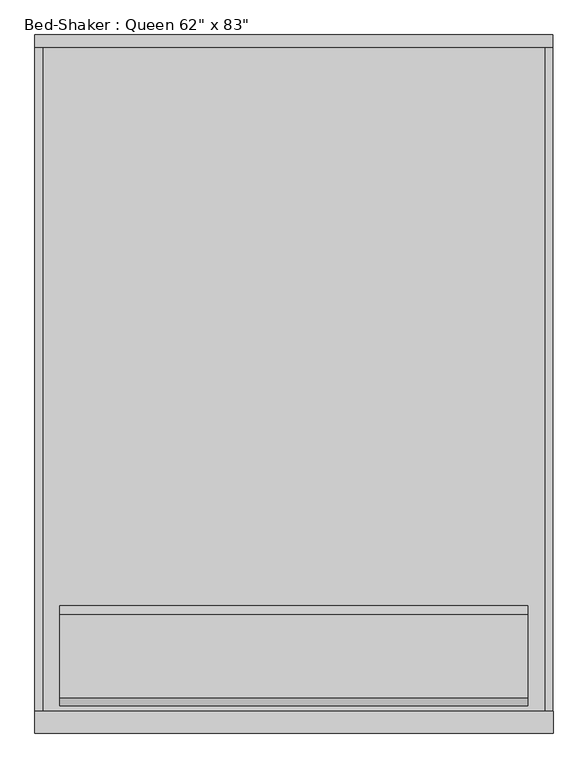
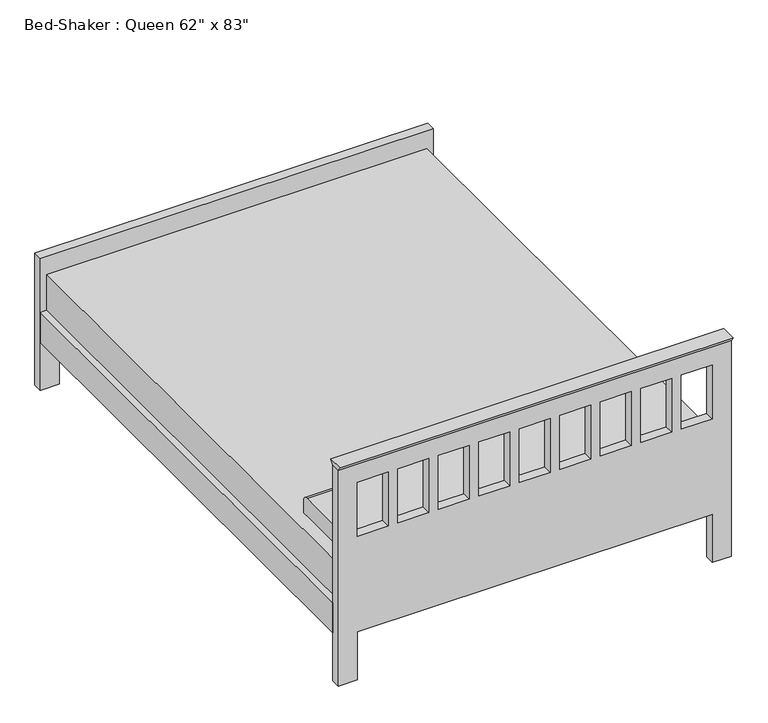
"""IFC4 building model written with IfcOpenShell, lengths in millimetres: furniture geometry."""

import ifcopenshell
import ifcopenshell.guid

model = None  # the IFC model being written
_history = None  # IfcOwnerHistory: only IFC2X3 demands one
_inside = {}  # id of a spatial element -> (the spatial element, [elements in it])
_under = {}  # id of a project, library or spatial element -> (it, [spatial elements below it])
_declared = {}  # id of a project -> (the project, [libraries it declares])
_typed = {}  # id of a type object -> (the type object, [elements of that type])
_made_of = {}  # id of a material, layer set ... -> (it, [elements and type objects made of it])


def new_model(schema):
    """Start an empty IFC model of exactly this schema.

    Asked for "IFC4X3", IfcOpenShell would pick the latest addendum, in which some entities
    have other attributes; the version numbers below select the first issue.
    IFC2X3 requires an IfcOwnerHistory on every rooted entity: one is made here for all.
    """
    global model, _history
    if schema == "IFC4X3":
        model = ifcopenshell.file(schema_version=(4, 3, 0, 0))
    else:
        model = ifcopenshell.file(schema=schema)
    _inside.clear()
    _under.clear()
    _declared.clear()
    _typed.clear()
    _made_of.clear()
    _history = None
    if model.schema == "IFC2X3":
        org = make("IfcOrganization", Name="unknown")
        user = make(
            "IfcPersonAndOrganization",
            ThePerson=make("IfcPerson", FamilyName="unknown"),
            TheOrganization=org,
        )
        app = make(
            "IfcApplication",
            ApplicationDeveloper=org,
            Version="unknown",
            ApplicationFullName="unknown",
            ApplicationIdentifier="unknown",
        )
        _history = make(
            "IfcOwnerHistory",
            OwningUser=user,
            OwningApplication=app,
            ChangeAction="ADDED",
            CreationDate=0,
        )
    return model


def make(cls, **values):
    """One entity of the class cls with the attributes given. An attribute that is None is left unset."""
    return model.create_entity(
        cls, **{name: value for name, value in values.items() if value is not None}
    )


def rooted(cls, **values):
    """An entity with a GlobalId (a new one), such as an element, a storey or a relation."""
    return make(cls, GlobalId=ifcopenshell.guid.new(), OwnerHistory=_history, **values)


def si_unit(unit_type, name, prefix=None):
    """IfcSIUnit, for example si_unit("LENGTHUNIT", "METRE", prefix="MILLI")."""
    return make("IfcSIUnit", UnitType=unit_type, Prefix=prefix, Name=name)


def assignment(units):
    """IfcUnitAssignment: the units of a project."""
    return None if units is None else make("IfcUnitAssignment", Units=units)


def point(xyz):
    """IfcCartesianPoint."""
    return None if xyz is None else make("IfcCartesianPoint", Coordinates=xyz)


def direction(xyz):
    """IfcDirection."""
    return None if xyz is None else make("IfcDirection", DirectionRatios=xyz)


def frame(location, z_axis=None, x_axis=None):
    """IfcAxis2Placement3D, a coordinate frame: its origin and axes. An axis left out is left unset."""
    return make(
        "IfcAxis2Placement3D",
        Location=point(location),
        Axis=direction(z_axis),
        RefDirection=direction(x_axis),
    )


def frame_2d(location, x_axis=None):
    """IfcAxis2Placement2D, a coordinate frame in the plane: its origin and x axis."""
    return make(
        "IfcAxis2Placement2D", Location=point(location), RefDirection=direction(x_axis)
    )


def origin():
    """The frame at (0, 0, 0) with its axes left unset."""
    return frame((0.0, 0.0, 0.0))


def place(relative_to, where):
    """IfcLocalPlacement: puts the frame where relative to a parent placement (None: the world)."""
    return make(
        "IfcLocalPlacement", PlacementRelTo=relative_to, RelativePlacement=where
    )


def context(
    kind, dimensions, precision=None, world=None, true_north=None, identifier=None
):
    """IfcGeometricRepresentationContext, for example the 3D "Model" context."""
    return make(
        "IfcGeometricRepresentationContext",
        ContextIdentifier=identifier,
        ContextType=kind,
        CoordinateSpaceDimension=dimensions,
        Precision=precision,
        WorldCoordinateSystem=world,
        TrueNorth=true_north,
    )


def project(units=None, contexts=None):
    """IfcProject with its units and contexts."""
    return rooted(
        "IfcProject",
        Name="project",
        RepresentationContexts=contexts,
        UnitsInContext=assignment(units),
    )


def spatial(cls, under=None, at=None, **own):
    """A site, building, storey or space (cls), placed at a placement, below another one or the project."""
    s = rooted(cls, ObjectPlacement=at, **own)
    if under is not None:
        _under.setdefault(under.id(), (under, []))[1].append(s)
    return s


def polyline(points):
    """IfcPolyline through the points."""
    return make("IfcPolyline", Points=[point(p) for p in points])


def circle_curve(where, radius):
    """IfcCircle in the frame where."""
    return make("IfcCircle", Position=where, Radius=radius)


def trimmed(basis, trim1, trim2, sense, master):
    """IfcTrimmedCurve: the piece of a basis curve between two trims."""
    return make(
        "IfcTrimmedCurve",
        BasisCurve=basis,
        Trim1=trim1,
        Trim2=trim2,
        SenseAgreement=sense,
        MasterRepresentation=master,
    )


def segment(curve, same_sense, transition):
    """IfcCompositeCurveSegment."""
    return make(
        "IfcCompositeCurveSegment",
        Transition=transition,
        SameSense=same_sense,
        ParentCurve=curve,
    )


def composite_curve(segments, self_intersect=None):
    """IfcCompositeCurve: segments joined end to end."""
    return make("IfcCompositeCurve", Segments=segments, SelfIntersect=self_intersect)


def outline(outer, holes=None, kind="AREA"):
    """IfcArbitraryClosedProfileDef: a profile drawn as a closed curve; with holes, ...WithVoids."""
    if holes is None:
        return make("IfcArbitraryClosedProfileDef", ProfileType=kind, OuterCurve=outer)
    return make(
        "IfcArbitraryProfileDefWithVoids",
        ProfileType=kind,
        OuterCurve=outer,
        InnerCurves=holes,
    )


def extrude(swept, where, along, depth):
    """IfcExtrudedAreaSolid: the profile swept, set in the frame where, extruded along a direction by depth."""
    return make(
        "IfcExtrudedAreaSolid",
        SweptArea=swept,
        Position=where,
        ExtrudedDirection=direction(along),
        Depth=depth,
    )


def shape(context_of_items, identifier, shape_type, items):
    """IfcShapeRepresentation: the items that make up one representation, for example the "Body"."""
    return make(
        "IfcShapeRepresentation",
        ContextOfItems=context_of_items,
        RepresentationIdentifier=identifier,
        RepresentationType=shape_type,
        Items=items,
    )


def source(mapping_origin, context_of_items, identifier, shape_type, items):
    """IfcRepresentationMap: a shape defined once, which mapped items show again and again."""
    return make(
        "IfcRepresentationMap",
        MappingOrigin=mapping_origin,
        MappedRepresentation=shape(context_of_items, identifier, shape_type, items),
    )


def transform(
    local_origin,
    x_axis=None,
    y_axis=None,
    z_axis=None,
    scale=None,
    scale2=None,
    scale3=None,
    uniform=True,
):
    """IfcCartesianTransformationOperator3D, or its non-uniform kind. x_axis, y_axis, z_axis: its Axis1, 2, 3."""
    if uniform:
        return make(
            "IfcCartesianTransformationOperator3D",
            Axis1=direction(x_axis),
            Axis2=direction(y_axis),
            LocalOrigin=point(local_origin),
            Scale=scale,
            Axis3=direction(z_axis),
        )
    return make(
        "IfcCartesianTransformationOperator3DnonUniform",
        Axis1=direction(x_axis),
        Axis2=direction(y_axis),
        LocalOrigin=point(local_origin),
        Scale=scale,
        Axis3=direction(z_axis),
        Scale2=scale2,
        Scale3=scale3,
    )


def mapped(mapping_source, mapping_target):
    """IfcMappedItem: shows the shape of a source again, moved by a transform."""
    return make(
        "IfcMappedItem", MappingSource=mapping_source, MappingTarget=mapping_target
    )


def made_of(thing, what):
    """Note that an element or type object is made of a material, layer set ...; save() writes the relation."""
    if what is not None:
        _made_of.setdefault(what.id(), (what, []))[1].append(thing)
    return thing


def element(
    cls,
    number,
    at=None,
    inside=None,
    cuts=None,
    type_object=None,
    material=None,
    context=None,
    identifier="Body",
    shape_type=None,
    held_by="IfcProductDefinitionShape",
    body=None,
    shapes=None,
    **own,
):
    """One element of the class cls, such as IfcWall. Its Tag is "e" and its number.

    at: its placement. inside: the storey or other place that contains it. cuts: it is an
    opening in that element (IfcRelVoidsElement). A single representation is given by context,
    identifier, shape_type and body (its items); several are given by shapes. held_by: the class
    of the entity that holds the representations. save() writes the other relations.
    """
    e = rooted(cls, Tag="e%d" % number, ObjectPlacement=at, **own)
    if body is not None:
        shapes = [shape(context, identifier, shape_type, body)]
    if shapes is not None:
        e.Representation = make(held_by, Representations=shapes)
    if inside is not None:
        _inside.setdefault(inside.id(), (inside, []))[1].append(e)
    if cuts is not None:
        rooted(
            "IfcRelVoidsElement", RelatingBuildingElement=cuts, RelatedOpeningElement=e
        )
    if type_object is not None:
        _typed.setdefault(type_object.id(), (type_object, []))[1].append(e)
    return made_of(e, material)


def aggregate(whole, parts):
    """IfcRelAggregates: a whole, such as a stair, and the parts it consists of."""
    return rooted("IfcRelAggregates", RelatingObject=whole, RelatedObjects=parts)


def save(model, path):
    """Write the relations noted so far, then the file.

    IfcRelAggregates (storeys below a building ...), IfcRelContainedInSpatialStructure (elements
    in a storey), IfcRelDefinesByType, IfcRelAssociatesMaterial and IfcRelDeclares: one each for
    every whole, place, type object, material and project.
    """
    for whole, parts in _under.values():
        aggregate(whole, parts)
    for where, things in _inside.values():
        rooted(
            "IfcRelContainedInSpatialStructure",
            RelatedElements=things,
            RelatingStructure=where,
        )
    for kind, things in _typed.values():
        rooted("IfcRelDefinesByType", RelatedObjects=things, RelatingType=kind)
    for what, things in _made_of.values():
        rooted("IfcRelAssociatesMaterial", RelatedObjects=things, RelatingMaterial=what)
    for by, libraries in _declared.values():
        rooted("IfcRelDeclares", RelatingContext=by, RelatedDefinitions=libraries)
    model.write(path)


def furniture_b202a70b(model_context):
    return source(origin(), model_context, "Body", "SweptSolid", [
        extrude(outline(polyline([(38.1, 914.4), (0.0, 914.4), (-13.8545455, 933.45), (51.9545455, 933.45), (38.1, 914.4)])), frame((-806.2365546, 0.0, 0.0), z_axis=(1.0, 0.0, 0.0), x_axis=(0.0, 1.0, 0.0)), (0.0, 0.0, 1.0), 1574.8533613),
        extrude(outline(composite_curve([segment(polyline([(373.2486637, 482.6), (68.4486637, 482.6), (68.4486637, 533.4)]), True, "CONTINUOUS"), segment(trimmed(circle_curve(frame_2d((93.8486637, 533.4)), 25.4), [point((68.4486637, 533.4))], [point((93.8486637, 558.8))], False, "CARTESIAN"), True, "CONTINUOUS"), segment(polyline([(93.8486637, 558.8), (347.8486637, 558.8)]), True, "CONTINUOUS"), segment(trimmed(circle_curve(frame_2d((347.8486637, 533.4)), 25.4), [point((347.8486637, 558.8))], [point((373.2486637, 533.4))], False, "CARTESIAN"), True, "CONTINUOUS"), segment(polyline([(373.2486637, 533.4), (373.2486637, 482.6)]), True, "CONTINUOUS")], self_intersect=False)), frame((-730.25, 0.0, 0.0), z_axis=(1.0, 0.0, 0.0), x_axis=(0.0, 1.0, 0.0)), (0.0, 0.0, 1.0), 1422.4),
        extrude(outline(polyline([(742.95, 38.1), (-781.05, 38.1), (-781.05, 2070.1), (742.95, 2070.1), (742.95, 38.1)])), frame((0.0, 0.0, 228.6), z_axis=(0.0, 0.0, 1.0), x_axis=(1.0, 0.0, 0.0)), (0.0, 0.0, 1.0), 254.0),
        extrude(outline(polyline([(742.95, 2070.1), (768.35, 2070.1), (768.35, 38.1), (742.95, 38.1), (742.95, 2070.1)])), frame((0.0, 0.0, 203.0994861), z_axis=(0.0, 0.0, 1.0), x_axis=(1.0, 0.0, 0.0)), (0.0, 0.0, 1.0), 127.0),
        extrude(outline(polyline([(-806.45, 2070.1), (-781.05, 2070.1), (-781.05, 38.1), (-806.45, 38.1), (-806.45, 2070.1)])), frame((0.0, 0.0, 203.5755296), z_axis=(0.0, 0.0, 1.0), x_axis=(1.0, 0.0, 0.0)), (0.0, 0.0, 1.0), 127.0),
        extrude(outline(polyline([(0.0, -730.25), (203.2, -730.25), (203.2, 692.15), (0.0, 692.15), (0.0, 768.35), (558.8, 768.35), (558.8, -806.45), (0.0, -806.45), (0.0, -730.25)])), frame((0.0, 2070.1, 0.0), z_axis=(0.0, 1.0, 0.0), x_axis=(0.0, 0.0, 1.0)), (0.0, 0.0, 1.0), 38.1),
        extrude(outline(polyline([(914.4, 768.6168067), (914.4, -806.2365546), (0.0, -806.2365546), (0.0, -730.25), (203.2, -730.25), (203.2, 692.15), (0.0, 692.15), (0.0, 768.6168067), (914.4, 768.6168067)]), holes=[polyline([(838.2, -606.0722222), (609.6, -606.0722222), (609.6, -730.25), (838.2, -730.25), (838.2, -606.0722222)]), polyline([(838.2, -443.7944444), (609.6, -443.7944444), (609.6, -567.9722222), (838.2, -567.9722222), (838.2, -443.7944444)]), polyline([(838.2, -281.5166667), (609.6, -281.5166667), (609.6, -405.6944444), (838.2, -405.6944444), (838.2, -281.5166667)]), polyline([(838.2, -119.2388889), (609.6, -119.2388889), (609.6, -243.4166667), (838.2, -243.4166667), (838.2, -119.2388889)]), polyline([(838.2, 205.3166667), (609.6, 205.3166667), (609.6, 81.1388889), (838.2, 81.1388889), (838.2, 205.3166667)]), polyline([(838.2, 367.5944444), (609.6, 367.5944444), (609.6, 243.4166667), (838.2, 243.4166667), (838.2, 367.5944444)]), polyline([(838.2, 529.8722222), (609.6, 529.8722222), (609.6, 405.6944444), (838.2, 405.6944444), (838.2, 529.8722222)]), polyline([(838.2, 692.15), (609.6, 692.15), (609.6, 567.9722222), (838.2, 567.9722222), (838.2, 692.15)]), polyline([(838.2, 43.0388889), (609.6, 43.0388889), (609.6, -81.1388889), (838.2, -81.1388889), (838.2, 43.0388889)])]), frame((0.0, 0.0, 0.0), z_axis=(0.0, 1.0, 0.0), x_axis=(0.0, 0.0, 1.0)), (0.0, 0.0, 1.0), 38.1),
    ])


if __name__ == "__main__":
    model = new_model("IFC4")
    model_context = context("Model", 3, world=origin())
    ifc_project = project(units=[si_unit("LENGTHUNIT", "METRE", prefix="MILLI")], contexts=[model_context])
    site = spatial("IfcSite", under=ifc_project)
    building = spatial("IfcBuilding", under=site)
    placement = place(None, origin())
    furniture_shape = furniture_b202a70b(model_context)
    element("IfcFurniture", 1, ObjectType="Bed-Shaker : Queen 62\" x 83\"", at=placement, inside=building, context=model_context, shape_type="MappedRepresentation", body=[
        mapped(furniture_shape, transform((0.0, 0.0, 0.0), x_axis=(1.0, 0.0, 0.0), y_axis=(0.0, 1.0, 0.0), z_axis=(0.0, 0.0, 1.0))),
    ])
    save(model, "model.ifc")
